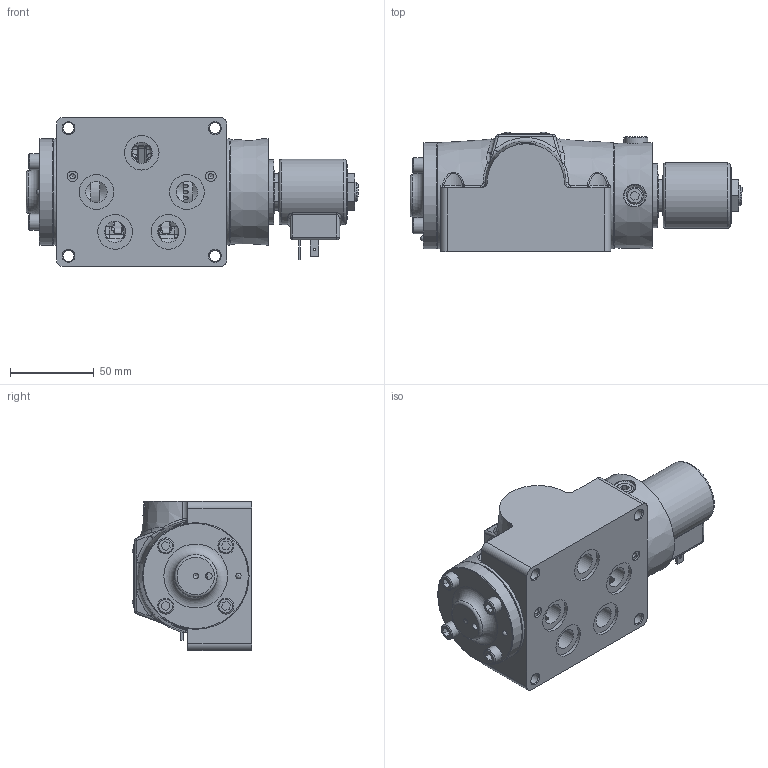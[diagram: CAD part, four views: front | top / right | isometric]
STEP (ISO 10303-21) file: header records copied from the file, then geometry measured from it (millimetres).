
FILE_DESCRIPTION(/* description */ (''),/* implementation_level */ '2;1');
FILE_NAME(/* name */ 'D:\Website Files\stp\Valves\Classic\SO\SO4PEDOP.stp',/* time_stamp */ '2015-11-15T23:07:46-05:00',/* author */ ('RMcKenna'),/* organization */ (''),/* preprocessor_version */ 'ST-DEVELOPER v15.6',/* originating_system */ 'Autodesk Inventor 2015',/* authorisation */ '');
FILE_SCHEMA (('AUTOMOTIVE_DESIGN { 1 0 10303 214 3 1 1 }'));
Products named in the file (1): Part54
Bounding box: 198.04 x 71.21 x 88.9 mm (x, y, z)
Volume: 593581.1 mm3; surface area: 129528.6 mm2
Topology: 3 solids, 27 shells, 1746 faces, 4102 edges, 2537 vertices
Faces by surface type: plane 613, cylinder 342, cone 325, bspline 316, torus 127, sphere 23
Full cylindrical faces by diameter (mm): 1.041 x1, 1.6 x3, 2.07 x2, 2.261 x2, 2.381 x1, 2.54 x1, 2.778 x2, 3.048 x3, 3.175 x7, 3.302 x1, 3.962 x1, 3.969 x1, 4.978 x8, 5.639 x1, 6.35 x10, 6.629 x5, 7.137 x4, 7.144 x8, 9.144 x1, 9.462 x2, 9.474 x2, 9.525 x10, 11.328 x1, 11.43 x1, 11.836 x2, 12.598 x1, 12.7 x6, 12.827 x2, 13.106 x1, 13.462 x1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
Entity records: 61988 total; most frequent: CARTESIAN_POINT 24568, ORIENTED_EDGE 7456, DIRECTION 6544, EDGE_CURVE 3728, AXIS2_PLACEMENT_3D 2552, VERTEX_POINT 2442, EDGE_LOOP 2214, FACE_OUTER_BOUND 1746
